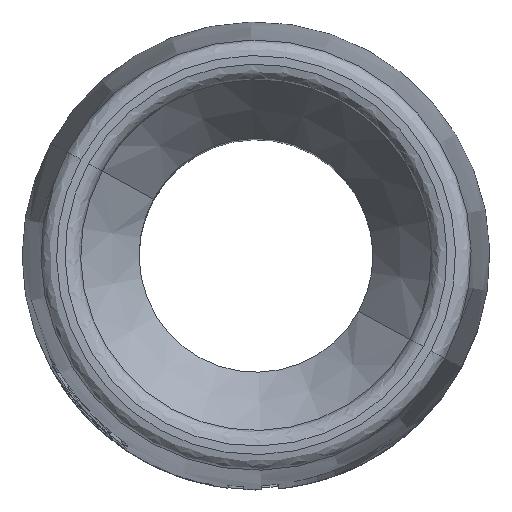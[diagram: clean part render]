
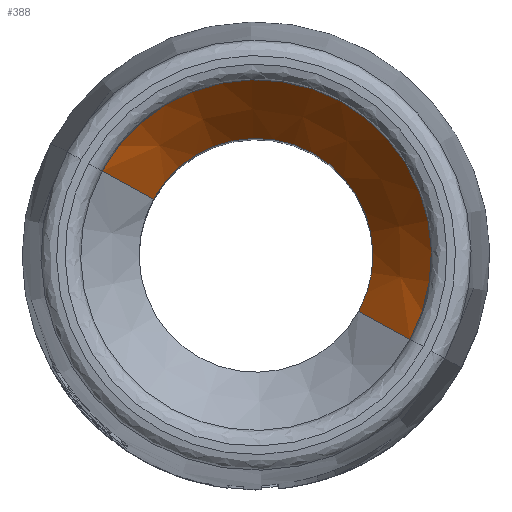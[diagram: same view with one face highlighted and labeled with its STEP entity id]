
A CAD part, top view. The second image highlights one B-rep face of the part: STEP entity #388.
In plain terms, the highlighted conical face has half-angle 36.87 degrees and reference radius 15 mm.
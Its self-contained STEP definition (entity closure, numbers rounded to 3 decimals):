
#324=CARTESIAN_POINT('Vertex',(-19.746,10.787,60.)) ;
#327=CARTESIAN_POINT('Axis2P3D Location',(0.,0.,60.)) ;
#331=CARTESIAN_POINT('Vertex',(19.746,-10.787,60.)) ;
#358=CARTESIAN_POINT('Axis2P3D Location',(0.,0.,50.)) ;
#363=CARTESIAN_POINT('Line Origine',(-16.455,8.989,55.)) ;
#367=CARTESIAN_POINT('Vertex',(-13.164,7.191,50.)) ;
#370=CARTESIAN_POINT('Axis2P3D Location',(0.,0.,50.)) ;
#374=CARTESIAN_POINT('Vertex',(13.164,-7.191,50.)) ;
#377=CARTESIAN_POINT('Line Origine',(16.455,-8.989,55.)) ;
#328=DIRECTION('Axis2P3D Direction',(0.,0.,-1.)) ;
#359=DIRECTION('Axis2P3D Direction',(-0.,-0.,1.)) ;
#360=DIRECTION('Axis2P3D XDirection',(-0.878,0.479,0.)) ;
#364=DIRECTION('Vector Direction',(-0.527,0.288,0.8)) ;
#371=DIRECTION('Axis2P3D Direction',(-0.,0.,1.)) ;
#378=DIRECTION('Vector Direction',(0.527,-0.288,0.8)) ;
#329=AXIS2_PLACEMENT_3D('Circle Axis2P3D',#327,#328,$) ;
#361=AXIS2_PLACEMENT_3D('Cone Axis2P3D',#358,#359,#360) ;
#372=AXIS2_PLACEMENT_3D('Circle Axis2P3D',#370,#371,$) ;
#383=ORIENTED_EDGE('',*,*,#333,.F.) ;
#384=ORIENTED_EDGE('',*,*,#369,.T.) ;
#385=ORIENTED_EDGE('',*,*,#376,.T.) ;
#386=ORIENTED_EDGE('',*,*,#381,.F.) ;
#365=VECTOR('Line Direction',#364,1.) ;
#379=VECTOR('Line Direction',#378,1.) ;
#388=ADVANCED_FACE('Hauptk\X2\00F6\X0\rper',(#387),#362,.F.) ;
#330=CIRCLE('generated circle',#329,22.5) ;
#373=CIRCLE('generated circle',#372,15.) ;
#362=CONICAL_SURFACE('Cone',#361,15.,0.644) ;
#333=EDGE_CURVE('',#325,#332,#330,.T.) ;
#369=EDGE_CURVE('',#325,#368,#366,.F.) ;
#376=EDGE_CURVE('',#368,#375,#373,.F.) ;
#381=EDGE_CURVE('',#332,#375,#380,.F.) ;
#382=EDGE_LOOP('',(#383,#384,#385,#386)) ;
#387=FACE_OUTER_BOUND('',#382,.T.) ;
#366=LINE('Line',#363,#365) ;
#380=LINE('Line',#377,#379) ;
#325=VERTEX_POINT('',#324) ;
#332=VERTEX_POINT('',#331) ;
#368=VERTEX_POINT('',#367) ;
#375=VERTEX_POINT('',#374) ;
